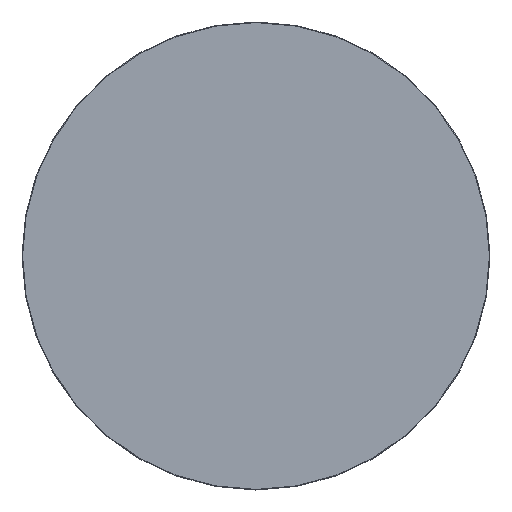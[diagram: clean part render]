
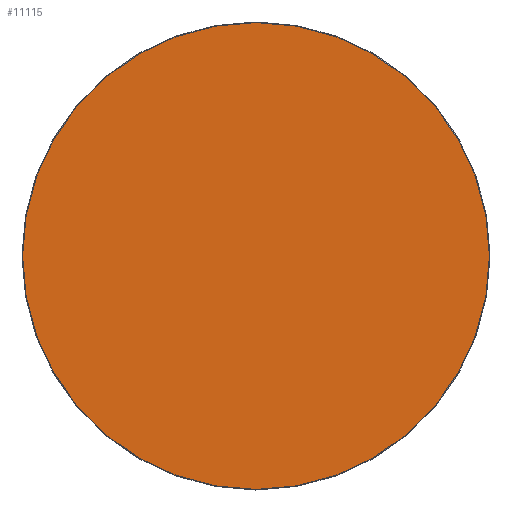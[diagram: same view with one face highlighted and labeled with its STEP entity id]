
A CAD part, top view. The second image highlights one B-rep face of the part: STEP entity #11115.
In plain terms, the highlighted planar face has unit normal (0, 0, 1).
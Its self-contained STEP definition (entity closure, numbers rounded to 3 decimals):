
#11040=CARTESIAN_POINT('',(0.,0.,20.));
#11041=DIRECTION('',(1.,0.,0.));
#11042=DIRECTION('',(0.,0.,1.));
#11043=AXIS2_PLACEMENT_3D('',#11040,#11042,#11041);
#11044=PLANE('',#11043);
#11045=CARTESIAN_POINT('',(-0.5,-598.5,20.));
#11046=VERTEX_POINT('',#11045);
#11047=CARTESIAN_POINT('',(0.5,-598.5,20.));
#11048=VERTEX_POINT('',#11047);
#11049=CARTESIAN_POINT('',(-0.5,-598.5,20.));
#11050=DIRECTION('',(1.,0.,0.));
#11051=VECTOR('',#11050,1.);
#11052=LINE('',#11049,#11051);
#11053=EDGE_CURVE('',#11046,#11048,#11052,.T.);
#11054=ORIENTED_EDGE('E105',*,*,#11053,.T.);
#11055=CARTESIAN_POINT('',(598.5,-0.5,20.));
#11056=VERTEX_POINT('',#11055);
#11057=CARTESIAN_POINT('',(0.5,-0.5,20.));
#11058=DIRECTION('',(0.,-1.,0.));
#11059=DIRECTION('',(0.,0.,1.));
#11060=AXIS2_PLACEMENT_3D('',#11057,#11059,#11058);
#11061=CIRCLE('',#11060,598.);
#11062=EDGE_CURVE('',#11048,#11056,#11061,.T.);
#11063=ORIENTED_EDGE('E107',*,*,#11062,.T.);
#11064=CARTESIAN_POINT('',(598.5,0.5,20.));
#11065=VERTEX_POINT('',#11064);
#11066=CARTESIAN_POINT('',(598.5,-0.5,20.));
#11067=DIRECTION('',(0.,1.,0.));
#11068=VECTOR('',#11067,1.);
#11069=LINE('',#11066,#11068);
#11070=EDGE_CURVE('',#11056,#11065,#11069,.T.);
#11071=ORIENTED_EDGE('E109',*,*,#11070,.T.);
#11072=CARTESIAN_POINT('',(0.5,598.5,20.));
#11073=VERTEX_POINT('',#11072);
#11074=CARTESIAN_POINT('',(0.5,0.5,20.));
#11075=DIRECTION('',(1.,0.,0.));
#11076=DIRECTION('',(0.,0.,1.));
#11077=AXIS2_PLACEMENT_3D('',#11074,#11076,#11075);
#11078=CIRCLE('',#11077,598.);
#11079=EDGE_CURVE('',#11065,#11073,#11078,.T.);
#11080=ORIENTED_EDGE('E111',*,*,#11079,.T.);
#11081=CARTESIAN_POINT('',(-0.5,598.5,20.));
#11082=VERTEX_POINT('',#11081);
#11083=CARTESIAN_POINT('',(0.5,598.5,20.));
#11084=DIRECTION('',(-1.,0.,0.));
#11085=VECTOR('',#11084,1.);
#11086=LINE('',#11083,#11085);
#11087=EDGE_CURVE('',#11073,#11082,#11086,.T.);
#11088=ORIENTED_EDGE('E113',*,*,#11087,.T.);
#11089=CARTESIAN_POINT('',(-598.5,0.5,20.));
#11090=VERTEX_POINT('',#11089);
#11091=CARTESIAN_POINT('',(-0.5,0.5,20.));
#11092=DIRECTION('',(0.,1.,0.));
#11093=DIRECTION('',(0.,0.,1.));
#11094=AXIS2_PLACEMENT_3D('',#11091,#11093,#11092);
#11095=CIRCLE('',#11094,598.);
#11096=EDGE_CURVE('',#11082,#11090,#11095,.T.);
#11097=ORIENTED_EDGE('E115',*,*,#11096,.T.);
#11098=CARTESIAN_POINT('',(-598.5,-0.5,20.));
#11099=VERTEX_POINT('',#11098);
#11100=CARTESIAN_POINT('',(-598.5,0.5,20.));
#11101=DIRECTION('',(0.,-1.,0.));
#11102=VECTOR('',#11101,1.);
#11103=LINE('',#11100,#11102);
#11104=EDGE_CURVE('',#11090,#11099,#11103,.T.);
#11105=ORIENTED_EDGE('E117',*,*,#11104,.T.);
#11106=CARTESIAN_POINT('',(-0.5,-0.5,20.));
#11107=DIRECTION('',(-1.,0.,0.));
#11108=DIRECTION('',(0.,0.,1.));
#11109=AXIS2_PLACEMENT_3D('',#11106,#11108,#11107);
#11110=CIRCLE('',#11109,598.);
#11111=EDGE_CURVE('',#11099,#11046,#11110,.T.);
#11112=ORIENTED_EDGE('E119',*,*,#11111,.T.);
#11113=EDGE_LOOP('',(#11054,#11063,#11071,#11080,#11088,#11097,#11105,#11112));
#11114=FACE_OUTER_BOUND('',#11113,.T.);
#11115=ADVANCED_FACE('F2',(#11114),#11044,.T.);
